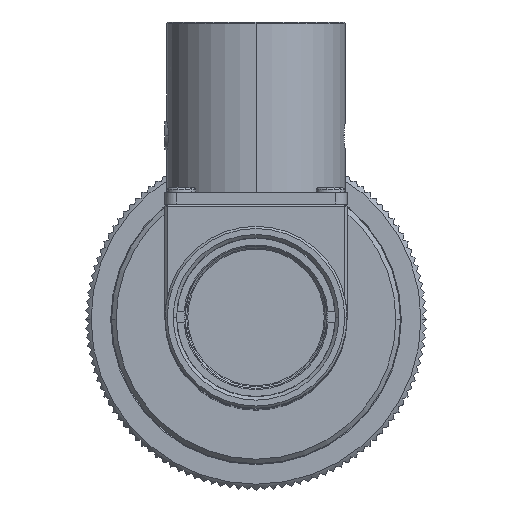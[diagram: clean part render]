
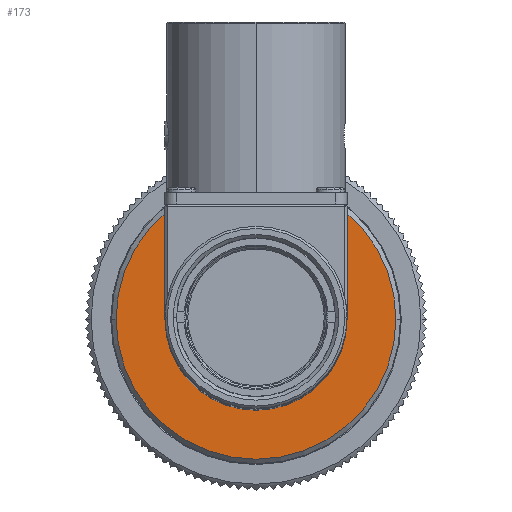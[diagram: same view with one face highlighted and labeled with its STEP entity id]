
A CAD part, top view. The second image highlights one B-rep face of the part: STEP entity #173.
In plain terms, the highlighted planar face has unit normal (0, 0, 1).
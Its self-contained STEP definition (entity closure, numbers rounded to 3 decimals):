
#10 = ORIENTED_EDGE ( 'NONE', *, *, #16573, .F. ) ;
#25 = EDGE_LOOP ( 'NONE', ( #10, #28 ) ) ;
#28 = ORIENTED_EDGE ( 'NONE', *, *, #177, .F. ) ;
#167 = EDGE_LOOP ( 'NONE', ( #18751, #175 ) ) ;
#173 = ADVANCED_FACE ( 'NONE', ( #17190, #17122 ), #17158, .F. ) ;
#175 = ORIENTED_EDGE ( 'NONE', *, *, #16657, .T. ) ;
#177 = EDGE_CURVE ( 'NONE', #16632, #16636, #17187, .T. ) ;
#10620 = DIRECTION ( 'NONE',  ( 1., 0., 0. ) ) ;
#10621 = DIRECTION ( 'NONE',  ( 0., 0., 1. ) ) ;
#10633 = CARTESIAN_POINT ( 'NONE',  ( 0., 0., -57.5 ) ) ;
#10635 = CIRCLE ( 'NONE', #10641, 8. ) ;
#10641 = AXIS2_PLACEMENT_3D ( 'NONE', #10633, #10621, #10620 ) ;
#10737 = CARTESIAN_POINT ( 'NONE',  ( -8., 0., -57.5 ) ) ;
#10775 = CARTESIAN_POINT ( 'NONE',  ( 12.3, 0., -57.5 ) ) ;
#10785 = CARTESIAN_POINT ( 'NONE',  ( 8., 0., -57.5 ) ) ;
#10792 = CARTESIAN_POINT ( 'NONE',  ( -12.3, 0., -57.5 ) ) ;
#10793 = DIRECTION ( 'NONE',  ( -1., 0., 0. ) ) ;
#10794 = DIRECTION ( 'NONE',  ( 0., 0., 1. ) ) ;
#10795 = AXIS2_PLACEMENT_3D ( 'NONE', #10797, #10794, #10793 ) ;
#10796 = CIRCLE ( 'NONE', #10795, 12.3 ) ;
#10797 = CARTESIAN_POINT ( 'NONE',  ( 0., 0., -57.5 ) ) ;
#11695 = CARTESIAN_POINT ( 'NONE',  ( 0., 0., -57.5 ) ) ;
#11706 = CIRCLE ( 'NONE', #11736, 12.3 ) ;
#11734 = DIRECTION ( 'NONE',  ( -1., 0., 0. ) ) ;
#11735 = DIRECTION ( 'NONE',  ( 0., 0., 1. ) ) ;
#11736 = AXIS2_PLACEMENT_3D ( 'NONE', #11695, #11735, #11734 ) ;
#16573 = EDGE_CURVE ( 'NONE', #16636, #16632, #10635, .T. ) ;
#16632 = VERTEX_POINT ( 'NONE', #10737 ) ;
#16636 = VERTEX_POINT ( 'NONE', #10785 ) ;
#16642 = VERTEX_POINT ( 'NONE', #10775 ) ;
#16657 = EDGE_CURVE ( 'NONE', #16642, #16659, #10796, .T. ) ;
#16659 = VERTEX_POINT ( 'NONE', #10792 ) ;
#17122 = FACE_BOUND ( 'NONE', #25, .T. ) ;
#17145 = AXIS2_PLACEMENT_3D ( 'NONE', #17180, #17179, #17178 ) ;
#17158 = PLANE ( 'NONE',  #17189 ) ;
#17178 = DIRECTION ( 'NONE',  ( 1., 0., 0. ) ) ;
#17179 = DIRECTION ( 'NONE',  ( 0., 0., 1. ) ) ;
#17180 = CARTESIAN_POINT ( 'NONE',  ( 0., 0., -57.5 ) ) ;
#17184 = DIRECTION ( 'NONE',  ( -1., 0., 0. ) ) ;
#17185 = DIRECTION ( 'NONE',  ( 0., 0., -1. ) ) ;
#17186 = CARTESIAN_POINT ( 'NONE',  ( 0., 8., -57.5 ) ) ;
#17187 = CIRCLE ( 'NONE', #17145, 8. ) ;
#17189 = AXIS2_PLACEMENT_3D ( 'NONE', #17186, #17185, #17184 ) ;
#17190 = FACE_OUTER_BOUND ( 'NONE', #167, .T. ) ;
#18751 = ORIENTED_EDGE ( 'NONE', *, *, #18756, .T. ) ;
#18756 = EDGE_CURVE ( 'NONE', #16659, #16642, #11706, .T. ) ;
